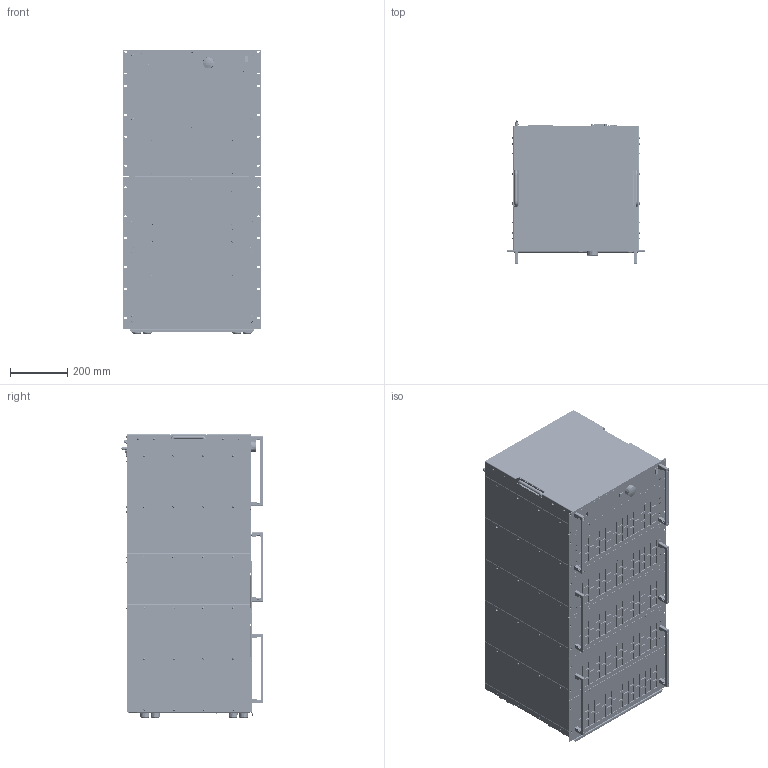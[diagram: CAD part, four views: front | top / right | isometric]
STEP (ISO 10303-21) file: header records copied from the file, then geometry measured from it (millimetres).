
FILE_DESCRIPTION(('STEP AP214'),'1');
FILE_NAME('ACL_M6_19Z_22HE_PH7_10.16-ST76_BRA_3D_02.step','2020-02-20T06:40:06',(' '),(' '),'Spatial InterOp 3D',' ',' ');
FILE_SCHEMA(('AUTOMOTIVE_DESIGN { 1 0 10303 214 1 1 1 1 }'));
Length unit declared in the file: millimetre
Products named in the file (18): *U385; *U386; *U387; *U389; *U390; *U391; *U392; *U393; *U394; *U395; 2078_ACL_IO Panel_02; 1962_ACL_Rückwand Steuerteil_mit_Druck_3D_03; *U426; *U461; *U462; *U463; AutoCreatedBlock_2551
Assembly tree (162 placements, depth 2):
  (unnamed)
    *U385  x32
    *U386  x24
    *U387  x32
    *U389  x2
    *U390
    *U391  x3
    *U392  x2
    *U393  x2
    *U394  x17
    *U395  x16
    2078_ACL_IO Panel_02  x3
    1962_ACL_Rückwand Steuerteil_mit_Druck_3D_03
    *U426  x4
    *U461  x8
    *U462  x6
    *U463  x8
    AutoCreatedBlock_2551
Bounding box: 482.6 x 499.4 x 994.85 mm (x, y, z)
Volume: 17483371.9 mm3; surface area: 8886761.4 mm2
Topology: 411 solids, 701 shells, 35206 faces, 87647 edges, 54817 vertices
Faces by surface type: plane 15844, cone 12806, cylinder 5733, sphere 382, torus 251, bspline 190
Entity records: 1099476 total; most frequent: CARTESIAN_POINT 181620, DIRECTION 146574, ORIENTED_EDGE 139598, EDGE_CURVE 70460, AXIS2_PLACEMENT_3D 49069, LINE 48436, VECTOR 48436, VERTEX_POINT 44519
